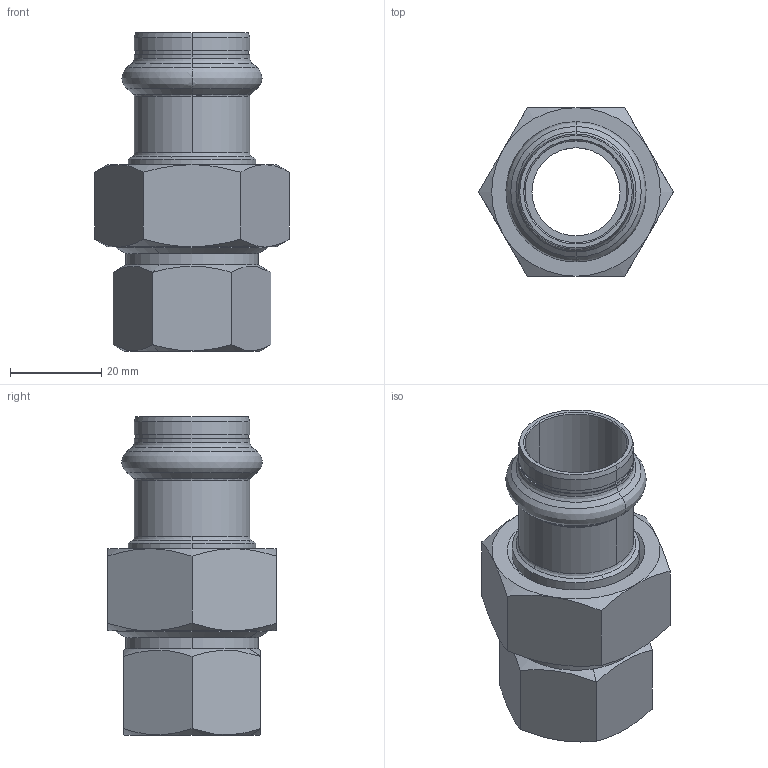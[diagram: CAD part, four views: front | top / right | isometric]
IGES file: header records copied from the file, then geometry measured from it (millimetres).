
Start section: Elysium IGES Interface
Global section: file name: F:\3d modellen sudo\S-Pr VP\SP6330GV\6330GVW2234.igs; native system: CoCreate Modeling 17.00A  17-Jun-2010; preprocessor: CoCreate IGES_3D V2.2; author: Unknown; organization: Unknown; date: 20130129.093539; units: millimetre
Bounding box: 42.72 x 37 x 70 mm (x, y, z)
Volume: 27305.4 mm3; surface area: 17828.4 mm2
Topology: 3 solids, 3 shells, 120 faces, 286 edges, 172 vertices
Faces by surface type: bspline 120
